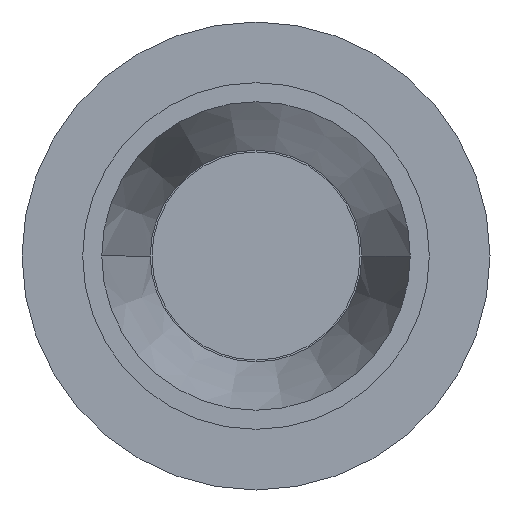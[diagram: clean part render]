
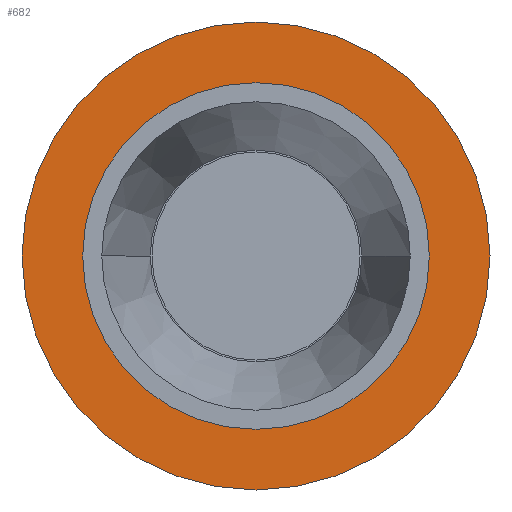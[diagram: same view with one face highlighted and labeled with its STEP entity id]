
A CAD part, left-side view. The second image highlights one B-rep face of the part: STEP entity #682.
In plain terms, the highlighted planar face has unit normal (-1, 0, 0).
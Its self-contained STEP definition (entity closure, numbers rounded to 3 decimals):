
#16 = DIRECTION ( 'NONE',  ( 1., 0., 0. ) ) ;
#106 = DIRECTION ( 'NONE',  ( 1., 0., 0. ) ) ;
#120 = CARTESIAN_POINT ( 'NONE',  ( -35., 13.5, 0. ) ) ;
#130 = AXIS2_PLACEMENT_3D ( 'NONE', #1253, #321, #747 ) ;
#143 = DIRECTION ( 'NONE',  ( 0., 1., 0. ) ) ;
#147 = VERTEX_POINT ( 'NONE', #160 ) ;
#160 = CARTESIAN_POINT ( 'NONE',  ( -35., -10., 0. ) ) ;
#201 = EDGE_CURVE ( 'NONE', #349, #1076, #724, .T. ) ;
#258 = AXIS2_PLACEMENT_3D ( 'NONE', #691, #1157, #143 ) ;
#283 = ORIENTED_EDGE ( 'NONE', *, *, #313, .T. ) ;
#307 = DIRECTION ( 'NONE',  ( 0., 1., 0. ) ) ;
#313 = EDGE_CURVE ( 'NONE', #147, #488, #556, .T. ) ;
#321 = DIRECTION ( 'NONE',  ( -1., 0., 0. ) ) ;
#335 = AXIS2_PLACEMENT_3D ( 'NONE', #684, #16, #307 ) ;
#349 = VERTEX_POINT ( 'NONE', #120 ) ;
#364 = EDGE_CURVE ( 'NONE', #488, #147, #808, .T. ) ;
#488 = VERTEX_POINT ( 'NONE', #749 ) ;
#514 = CARTESIAN_POINT ( 'NONE',  ( -35., 0., 0. ) ) ;
#531 = DIRECTION ( 'NONE',  ( 0., 1., 0. ) ) ;
#556 = CIRCLE ( 'NONE', #643, 10. ) ;
#562 = ORIENTED_EDGE ( 'NONE', *, *, #201, .F. ) ;
#563 = CIRCLE ( 'NONE', #258, 13.5 ) ;
#581 = AXIS2_PLACEMENT_3D ( 'NONE', #642, #619, #1026 ) ;
#619 = DIRECTION ( 'NONE',  ( 1., 0., 0. ) ) ;
#642 = CARTESIAN_POINT ( 'NONE',  ( -35., 0., 0. ) ) ;
#643 = AXIS2_PLACEMENT_3D ( 'NONE', #514, #106, #531 ) ;
#682 = ADVANCED_FACE ( 'NONE', ( #867, #1015 ), #1059, .T. ) ;
#684 = CARTESIAN_POINT ( 'NONE',  ( -35., 0., 0. ) ) ;
#691 = CARTESIAN_POINT ( 'NONE',  ( -35., 0., 0. ) ) ;
#724 = CIRCLE ( 'NONE', #335, 13.5 ) ;
#741 = ORIENTED_EDGE ( 'NONE', *, *, #364, .T. ) ;
#747 = DIRECTION ( 'NONE',  ( 0., -1., 0. ) ) ;
#749 = CARTESIAN_POINT ( 'NONE',  ( -35., 10., 0. ) ) ;
#778 = EDGE_LOOP ( 'NONE', ( #741, #283 ) ) ;
#784 = ORIENTED_EDGE ( 'NONE', *, *, #912, .F. ) ;
#790 = EDGE_LOOP ( 'NONE', ( #562, #784 ) ) ;
#808 = CIRCLE ( 'NONE', #581, 10. ) ;
#867 = FACE_BOUND ( 'NONE', #778, .T. ) ;
#912 = EDGE_CURVE ( 'NONE', #1076, #349, #563, .T. ) ;
#1015 = FACE_OUTER_BOUND ( 'NONE', #790, .T. ) ;
#1026 = DIRECTION ( 'NONE',  ( 0., 1., 0. ) ) ;
#1059 = PLANE ( 'NONE',  #130 ) ;
#1076 = VERTEX_POINT ( 'NONE', #1182 ) ;
#1157 = DIRECTION ( 'NONE',  ( 1., 0., 0. ) ) ;
#1182 = CARTESIAN_POINT ( 'NONE',  ( -35., -13.5, 0. ) ) ;
#1253 = CARTESIAN_POINT ( 'NONE',  ( -35., 13.5, 0. ) ) ;
